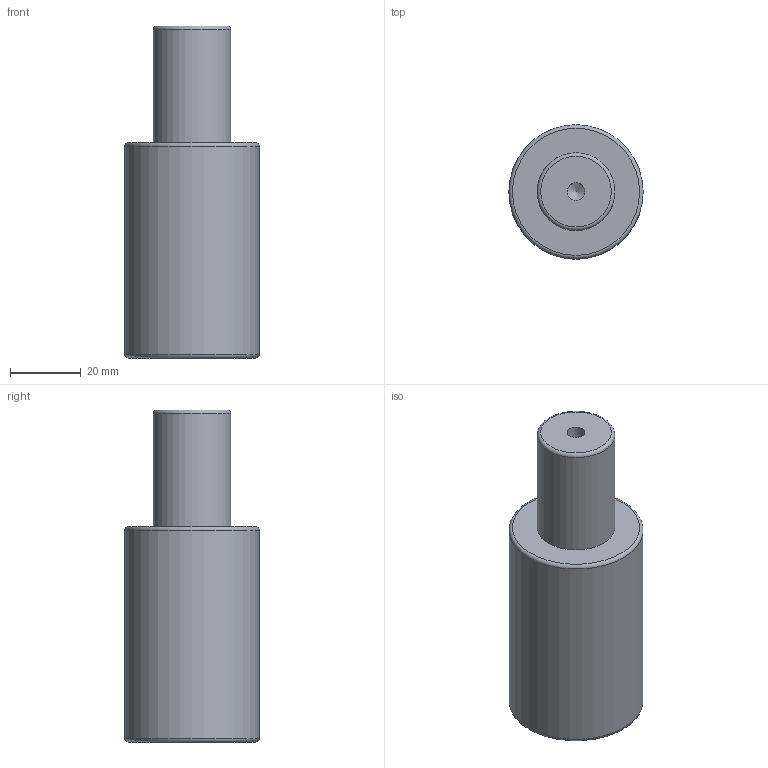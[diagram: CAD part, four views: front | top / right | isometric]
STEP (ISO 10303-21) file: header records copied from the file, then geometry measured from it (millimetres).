
FILE_DESCRIPTION(/* description */ (''),/* implementation_level */ '2;1');
FILE_NAME(/* name */ 'NV5-SMLX.38x32.stp',/* time_stamp */ '2018-08-31T16:08:35+02:00',/* author */ (''),/* organization */ (''),/* preprocessor_version */ 'ST-DEVELOPER v16',/* originating_system */ 'SIEMENS PLM Software NX 10.0',/* authorisation */ '');
FILE_SCHEMA (('AUTOMOTIVE_DESIGN { 1 0 10303 214 3 1 1 1 }'));
Length unit declared in the file: millimetre
Products named in the file (1): NV5-SMLX.38x32
Bounding box: 38 x 38 x 94 mm (x, y, z)
Volume: 80828.6 mm3; surface area: 12221.7 mm2
Topology: 1 solids, 1 shells, 12 faces, 24 edges, 15 vertices
Faces by surface type: cylinder 4, torus 3, plane 3, cone 2
Full cylindrical faces by diameter (mm): 5 x1, 6.8 x1, 22 x1, 38 x1
Entity records: 266 total; most frequent: DIRECTION 48, CARTESIAN_POINT 37, FACE_BOUND 24, AXIS2_PLACEMENT_3D 24, EDGE_LOOP 22, ORIENTED_EDGE 22, VERTEX_POINT 13, ADVANCED_FACE 12
